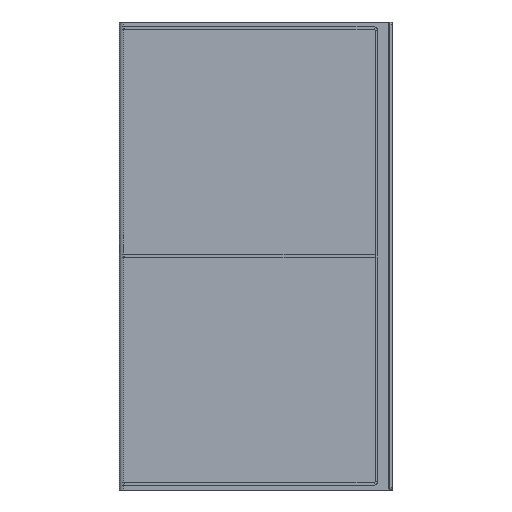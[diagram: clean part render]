
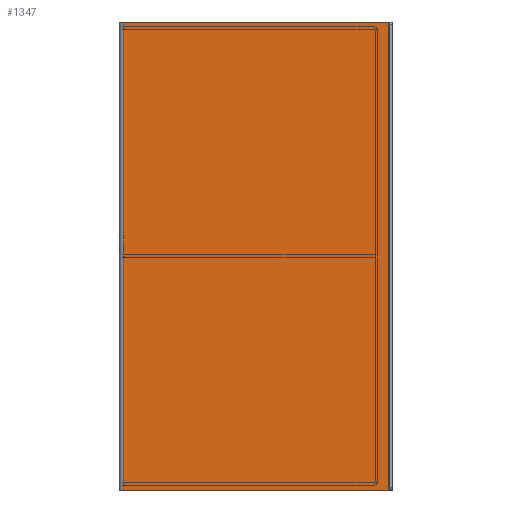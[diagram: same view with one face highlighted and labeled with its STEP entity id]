
A CAD part, left-side view. The second image highlights one B-rep face of the part: STEP entity #1347.
In plain terms, the highlighted planar face has unit normal (-1, 0, 0).
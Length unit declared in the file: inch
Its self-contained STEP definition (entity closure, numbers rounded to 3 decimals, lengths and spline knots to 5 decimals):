
#7 = LINE ( 'NONE', #2757, #3795 ) ;
#36 = CARTESIAN_POINT ( 'NONE',  ( -18.125, -13.803, 24. ) ) ;
#95 = VERTEX_POINT ( 'NONE', #36 ) ;
#98 = DIRECTION ( 'NONE',  ( 0., 0., 1. ) ) ;
#144 = LINE ( 'NONE', #2270, #440 ) ;
#440 = VECTOR ( 'NONE', #525, 39.37008 ) ;
#525 = DIRECTION ( 'NONE',  ( 0., 1., 0. ) ) ;
#854 = CARTESIAN_POINT ( 'NONE',  ( -18.125, -13.803, 24. ) ) ;
#1283 = VECTOR ( 'NONE', #4396, 39.37008 ) ;
#1297 = DIRECTION ( 'NONE',  ( -1., 0., 0. ) ) ;
#1329 = FACE_OUTER_BOUND ( 'NONE', #4980, .T. ) ;
#1347 = ADVANCED_FACE ( 'NONE', ( #1329 ), #4070, .T. ) ;
#1551 = CARTESIAN_POINT ( 'NONE',  ( -18.125, -0.197, 24. ) ) ;
#1798 = CARTESIAN_POINT ( 'NONE',  ( -18.125, 0., 24. ) ) ;
#1869 = LINE ( 'NONE', #3661, #4170 ) ;
#1918 = VERTEX_POINT ( 'NONE', #3980 ) ;
#1926 = DIRECTION ( 'NONE',  ( 0., 0., -1. ) ) ;
#2215 = ORIENTED_EDGE ( 'NONE', *, *, #3191, .T. ) ;
#2270 = CARTESIAN_POINT ( 'NONE',  ( -18.125, 0., 0. ) ) ;
#2738 = AXIS2_PLACEMENT_3D ( 'NONE', #1798, #1297, #98 ) ;
#2755 = EDGE_CURVE ( 'NONE', #4706, #4035, #1869, .T. ) ;
#2757 = CARTESIAN_POINT ( 'NONE',  ( -18.125, 0., 24. ) ) ;
#3191 = EDGE_CURVE ( 'NONE', #95, #4706, #7, .T. ) ;
#3644 = ORIENTED_EDGE ( 'NONE', *, *, #2755, .T. ) ;
#3661 = CARTESIAN_POINT ( 'NONE',  ( -18.125, -0.197, 24. ) ) ;
#3776 = EDGE_CURVE ( 'NONE', #1918, #4035, #144, .T. ) ;
#3795 = VECTOR ( 'NONE', #4856, 39.37008 ) ;
#3980 = CARTESIAN_POINT ( 'NONE',  ( -18.125, -13.803, 0. ) ) ;
#4035 = VERTEX_POINT ( 'NONE', #4958 ) ;
#4070 = PLANE ( 'NONE',  #2738 ) ;
#4170 = VECTOR ( 'NONE', #1926, 39.37008 ) ;
#4365 = ORIENTED_EDGE ( 'NONE', *, *, #5181, .F. ) ;
#4396 = DIRECTION ( 'NONE',  ( 0., 0., -1. ) ) ;
#4706 = VERTEX_POINT ( 'NONE', #1551 ) ;
#4832 = LINE ( 'NONE', #854, #1283 ) ;
#4856 = DIRECTION ( 'NONE',  ( 0., 1., 0. ) ) ;
#4958 = CARTESIAN_POINT ( 'NONE',  ( -18.125, -0.197, 0. ) ) ;
#4980 = EDGE_LOOP ( 'NONE', ( #5607, #4365, #2215, #3644 ) ) ;
#5181 = EDGE_CURVE ( 'NONE', #95, #1918, #4832, .T. ) ;
#5607 = ORIENTED_EDGE ( 'NONE', *, *, #3776, .F. ) ;
